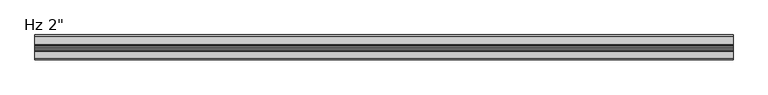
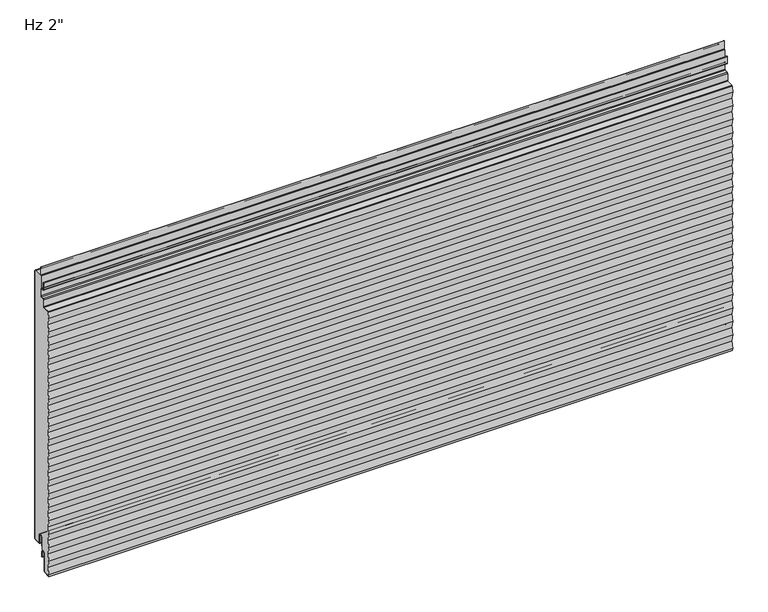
"""IFC4 building model written with IfcOpenShell, lengths in millimetres: plate geometry."""

from ifc_helpers import new_model, si_unit, point, frame, frame_2d, origin, place, context, project, spatial, polyline, circle_curve, ellipse_curve, trimmed, segment, composite_curve, outline, extrude, source, transform, mapped, element, save
from ifc_brep_helpers import plane_surface, cylinder_surface, revolved_surface, extruded_surface, advanced_brep


def plate_d9096f4b(model_context):
    return source(origin(), model_context, "Body", "SolidModel", [
        extrude(outline(composite_curve([segment(polyline([(-22.8125, 564.5620957), (-22.8125, 607.80625), (-2.38125, 607.80625)]), True, "CONTINUOUS"), segment(trimmed(circle_curve(frame_2d((-2.38125, 606.425)), 1.38125), [point((-2.38125, 607.80625))], [point((-1.0, 606.425))], False, "CARTESIAN"), True, "CONTINUOUS"), segment(polyline([(-1.0, 606.425), (-1.0, 3.175)]), True, "CONTINUOUS"), segment(trimmed(circle_curve(frame_2d((-2.38125, 3.175)), 1.38125), [point((-1.0, 3.175))], [point((-2.38125, 1.79375))], False, "CARTESIAN"), True, "CONTINUOUS"), segment(polyline([(-2.38125, 1.79375), (-15.08125, 1.79375)]), True, "CONTINUOUS"), segment(trimmed(circle_curve(frame_2d((-15.08125, 3.175)), 1.38125), [point((-15.08125, 1.79375))], [point((-16.4625, 3.175))], False, "CARTESIAN"), True, "CONTINUOUS"), segment(polyline([(-16.4625, 3.175), (-16.4625, 19.05)]), True, "CONTINUOUS"), segment(trimmed(circle_curve(frame_2d((-21.43125, 19.05)), 4.96875), [point((-16.4625, 19.05))], [point((-26.4, 19.05))], True, "CARTESIAN"), True, "CONTINUOUS"), segment(polyline([(-26.4, 19.05), (-26.4, -6.9375), (-30.95625, -6.9375)]), True, "CONTINUOUS"), segment(trimmed(circle_curve(frame_2d((-30.95625, -11.90625)), 4.96875), [point((-30.95625, -6.9375))], [point((-35.925, -11.90625))], True, "CARTESIAN"), True, "CONTINUOUS"), segment(polyline([(-35.925, -11.90625), (-35.925, -50.0895546)]), True, "CONTINUOUS"), segment(trimmed(circle_curve(frame_2d((-37.30625, -50.0895546)), 1.38125), [point((-35.925, -50.0895546))], [point((-37.233961, -51.4689117))], False, "CARTESIAN"), True, "CONTINUOUS"), segment(polyline([(-37.233961, -51.4689117), (-50.4085109, -52.1593606), (-50.9378194, -48.8511825), (-48.4994194, -33.6111825), (-50.9378194, -18.3711825), (-48.4994194, -3.1311825), (-50.9378194, 12.1088175), (-48.4994194, 27.3488175), (-50.9378194, 42.5888175), (-48.4994194, 57.8288175), (-50.9378194, 73.0688175), (-48.4994194, 88.3088175), (-50.9378194, 103.5488175), (-48.4994194, 118.7888175), (-50.9378194, 134.0288175), (-48.4994194, 149.2688175), (-50.9378194, 164.5088175), (-48.4994194, 179.7488175), (-50.9378194, 194.9888175), (-48.4994194, 210.2288175), (-50.9378194, 225.4688175), (-48.4994194, 240.7088175), (-50.9378194, 255.9488175), (-48.4994194, 271.1888175), (-50.9378194, 286.4288175), (-48.4994194, 301.6688175), (-50.9378194, 316.9088175), (-48.4994194, 332.1488175), (-50.9378194, 347.3888175), (-48.4994194, 362.6288175), (-50.9378194, 377.8688175), (-48.4994194, 393.1088175), (-50.9378194, 408.3488175), (-48.4994194, 423.5888175), (-50.9378194, 438.8288175), (-48.4994194, 454.0688175), (-50.9378194, 469.3088175), (-48.4994194, 484.5488175), (-50.9378194, 499.7888175), (-48.4994194, 515.0288175), (-50.9054086, 530.06625), (-48.8673048, 542.8043985), (-34.7895807, 543.5421807)]), True, "CONTINUOUS"), segment(trimmed(circle_curve(frame_2d((-34.925, 546.1261347)), 2.5875), [point((-34.7895807, 543.5421807))], [point((-32.3375, 546.1261347))], True, "CARTESIAN"), True, "CONTINUOUS"), segment(polyline([(-32.3375, 546.1261347), (-32.3375, 560.2967085)]), True, "CONTINUOUS"), segment(trimmed(circle_curve(frame_2d((-30.95625, 560.2967085)), 1.38125), [point((-32.3375, 560.2967085))], [point((-31.028539, 561.6760655))], False, "CARTESIAN"), True, "CONTINUOUS"), segment(polyline([(-31.028539, 561.6760655), (-25.2645807, 561.9781418)]), True, "CONTINUOUS"), segment(trimmed(circle_curve(frame_2d((-25.4, 564.5620957)), 2.5875), [point((-25.2645807, 561.9781418))], [point((-22.8125, 564.5620957))], True, "CARTESIAN"), True, "CONTINUOUS")], self_intersect=False)), frame((-730.0, 0.0, 0.0), z_axis=(1.0, 0.0, 0.0), x_axis=(0.0, 1.0, 0.0)), (0.0, 0.0, 1.0), 1460.0),
        extrude(outline(composite_curve([segment(polyline([(-25.4, 0.79375), (-26.4, 0.79375), (-26.4, 19.05)]), True, "CONTINUOUS"), segment(trimmed(circle_curve(frame_2d((-21.43125, 19.05)), 4.96875), [point((-26.4, 19.05))], [point((-16.4625, 19.05))], False, "CARTESIAN"), True, "CONTINUOUS"), segment(polyline([(-16.4625, 19.05), (-16.4625, 3.175)]), True, "CONTINUOUS"), segment(trimmed(circle_curve(frame_2d((-15.08125, 3.175)), 1.38125), [point((-16.4625, 3.175))], [point((-15.08125, 1.79375))], True, "CARTESIAN"), True, "CONTINUOUS"), segment(polyline([(-15.08125, 1.79375), (-2.38125, 1.79375)]), True, "CONTINUOUS"), segment(trimmed(circle_curve(frame_2d((-2.38125, 3.175)), 1.38125), [point((-2.38125, 1.79375))], [point((-1.0, 3.175))], True, "CARTESIAN"), True, "CONTINUOUS"), segment(polyline([(-1.0, 3.175), (-1.0, 606.425)]), True, "CONTINUOUS"), segment(trimmed(circle_curve(frame_2d((-2.38125, 606.425)), 1.38125), [point((-1.0, 606.425))], [point((-2.38125, 607.80625))], True, "CARTESIAN"), True, "CONTINUOUS"), segment(polyline([(-2.38125, 607.80625), (-19.446875, 607.80625)]), True, "CONTINUOUS"), segment(trimmed(circle_curve(frame_2d((-19.446875, 610.39375)), 2.5875), [point((-19.446875, 607.80625))], [point((-22.034375, 610.39375))], False, "CARTESIAN"), True, "CONTINUOUS"), segment(polyline([(-22.034375, 610.39375), (-22.034375, 627.85625), (-21.034375, 627.85625), (-21.034375, 610.39375)]), True, "CONTINUOUS"), segment(trimmed(circle_curve(frame_2d((-19.446875, 610.39375)), 1.5875), [point((-21.034375, 610.39375))], [point((-19.446875, 608.80625))], True, "CARTESIAN"), True, "CONTINUOUS"), segment(polyline([(-19.446875, 608.80625), (-2.38125, 608.80625)]), True, "CONTINUOUS"), segment(trimmed(circle_curve(frame_2d((-2.38125, 606.425)), 2.38125), [point((-2.38125, 608.80625))], [point((0.0, 606.425))], False, "CARTESIAN"), True, "CONTINUOUS"), segment(polyline([(0.0, 606.425), (0.0, 3.175)]), True, "CONTINUOUS"), segment(trimmed(circle_curve(frame_2d((-2.38125, 3.175)), 2.38125), [point((0.0, 3.175))], [point((-2.38125, 0.79375))], False, "CARTESIAN"), True, "CONTINUOUS"), segment(polyline([(-2.38125, 0.79375), (-15.08125, 0.79375)]), True, "CONTINUOUS"), segment(trimmed(circle_curve(frame_2d((-15.08125, 3.175)), 2.38125), [point((-15.08125, 0.79375))], [point((-17.4625, 3.175))], False, "CARTESIAN"), True, "CONTINUOUS"), segment(polyline([(-17.4625, 3.175), (-17.4625, 19.05)]), True, "CONTINUOUS"), segment(trimmed(circle_curve(frame_2d((-21.43125, 19.05)), 3.96875), [point((-17.4625, 19.05))], [point((-25.4, 19.05))], True, "CARTESIAN"), True, "CONTINUOUS"), segment(polyline([(-25.4, 19.05), (-25.4, 0.79375)]), True, "CONTINUOUS")], self_intersect=False)), frame((-730.0, 0.0, 0.0), z_axis=(1.0, 0.0, 0.0), x_axis=(0.0, 1.0, 0.0)), (0.0, 0.0, 1.0), 1460.0),
        advanced_brep(
        [(-730.0, -48.5998204, 271.1690814), (730.0, -48.5998204, 271.1690814), (730.0, -51.0382204, 255.9290814), (-730.0, -51.0382204, 255.9290814), (-730.0, -48.543375, 543.8227473), (730.0, -48.543375, 543.8227473), (730.0, -34.8419167, 544.5408103), (-730.0, -34.8419167, 544.5408103), (-730.0, -49.6125395, 515.0090814), (730.0, -49.6125395, 515.0090814), (730.0, -52.0185287, 530.0465139), (-730.0, -52.0185287, 530.0465139), (-730.0, -48.5998204, 515.0090814), (730.0, -48.5998204, 515.0090814), (730.0, -51.0382204, 499.7690814), (-730.0, -51.0382204, 499.7690814), (730.0, -48.5998204, 484.5290814), (-730.0, -48.5998204, 484.5290814), (730.0, -51.0382204, 469.2890814), (-730.0, -51.0382204, 469.2890814), (730.0, -48.5998204, 454.0490814), (-730.0, -48.5998204, 454.0490814), (730.0, -51.0382204, 438.8090814), (-730.0, -51.0382204, 438.8090814), (730.0, -48.5998204, 423.5690814), (-730.0, -48.5998204, 423.5690814), (730.0, -51.0382204, 408.3290814), (-730.0, -51.0382204, 408.3290814), (730.0, -48.5998204, 393.0890814), (-730.0, -48.5998204, 393.0890814), (730.0, -51.0382204, 377.8490814), (-730.0, -51.0382204, 377.8490814), (730.0, -48.5998204, 362.6090814), (-730.0, -48.5998204, 362.6090814), (730.0, -51.0382204, 347.3690814), (-730.0, -51.0382204, 347.3690814), (730.0, -48.5998204, 332.1290814), (-730.0, -48.5998204, 332.1290814), (730.0, -51.0382204, 316.8890814), (-730.0, -51.0382204, 316.8890814), (-730.0, -52.0509395, 438.8090814), (730.0, -52.0509395, 438.8090814), (730.0, -49.6125395, 454.0490814), (-730.0, -49.6125395, 454.0490814), (730.0, -52.0509395, 469.2890814), (-730.0, -52.0509395, 469.2890814), (730.0, -49.6125395, 484.5290814), (-730.0, -49.6125395, 484.5290814), (730.0, -52.0509395, 499.7690814), (-730.0, -52.0509395, 499.7690814), (-730.0, -48.491039, 542.8241177), (730.0, -48.491039, 542.8241177), (730.0, -49.040413, 542.3302423), (-730.0, -49.040413, 542.3302423), (730.0, -51.0058096, 530.0465139), (-730.0, -51.0058096, 530.0465139), (-730.0, -49.6125395, 362.6090814), (730.0, -49.6125395, 362.6090814), (730.0, -52.0509395, 377.8490814), (-730.0, -52.0509395, 377.8490814), (-730.0, -52.0509395, 408.3290814), (730.0, -52.0509395, 408.3290814), (730.0, -49.6125395, 423.5690814), (-730.0, -49.6125395, 423.5690814), (-730.0, -49.6125395, 301.6490814), (730.0, -49.6125395, 301.6490814), (730.0, -52.0509395, 316.8890814), (-730.0, -52.0509395, 316.8890814), (-730.0, -52.0509395, 347.3690814), (730.0, -52.0509395, 347.3690814), (-730.0, -49.6125395, 240.6890814), (730.0, -49.6125395, 240.6890814), (730.0, -52.0509395, 255.9290814), (-730.0, -52.0509395, 255.9290814), (-730.0, -52.0509395, 286.4090814), (730.0, -52.0509395, 286.4090814), (-730.0, -49.6125395, 179.7290814), (730.0, -49.6125395, 179.7290814), (730.0, -52.0509395, 194.9690814), (-730.0, -52.0509395, 194.9690814), (-730.0, -52.0509395, 225.4490814), (730.0, -52.0509395, 225.4490814), (-730.0, -49.6125395, 118.7690814), (730.0, -49.6125395, 118.7690814), (730.0, -52.0509395, 134.0090814), (-730.0, -52.0509395, 134.0090814), (-730.0, -52.0509395, 164.4890814), (730.0, -52.0509395, 164.4890814), (-730.0, -49.6125395, 57.8090814), (730.0, -49.6125395, 57.8090814), (730.0, -52.0509395, 73.0490814), (-730.0, -52.0509395, 73.0490814), (-730.0, -52.0509395, 103.5290814), (730.0, -52.0509395, 103.5290814), (-730.0, -49.6125395, -3.1509186), (730.0, -49.6125395, -3.1509186), (730.0, -52.0509395, 12.0890814), (-730.0, -52.0509395, 12.0890814), (-730.0, -52.0509395, 42.5690814), (730.0, -52.0509395, 42.5690814), (-730.0, -25.4, -23.2314549), (-730.0, -26.9875, -23.2314549), (-730.0, -26.9875, -11.9205174), (-730.0, -34.925, -11.9205174), (-730.0, -34.925, -50.1038221), (-730.0, -37.181625, -52.4818086), (-730.0, -51.3543553, -53.22457), (-730.0, -52.0509395, -48.8709186), (-730.0, -49.6125395, -33.6309186), (-730.0, -52.0509395, -18.3909186), (-730.0, -49.6125395, 27.3290814), (-730.0, -49.6125395, 88.2890814), (-730.0, -49.6125395, 149.2490814), (-730.0, -49.6125395, 210.2090814), (-730.0, -49.6125395, 271.1690814), (-730.0, -49.6125395, 332.1290814), (-730.0, -49.6125395, 393.0890814), (-730.0, -50.0278537, 542.4882328), (-730.0, -33.3375, 546.1261347), (-730.0, -33.3375, 560.2824411), (-730.0, -31.080875, 562.6604276), (-730.0, -25.3169167, 562.9625039), (-730.0, -23.8125, 564.5478283), (-730.0, -23.8125, 579.4232326), (-730.0, -25.4, 581.0107326), (-730.0, -29.5671875, 581.0107326), (-730.0, -31.9484375, 583.3919826), (-730.0, -31.9484375, 597.8836032), (-730.0, -30.1546875, 597.8836032), (-730.0, -30.1546875, 588.1544826), (-730.0, -30.9484375, 588.1544826), (-730.0, -30.9484375, 583.3919826), (-730.0, -29.5671875, 582.0107326), (-730.0, -25.4, 582.0107326), (-730.0, -22.8125, 579.4232326), (-730.0, -22.8125, 564.5478283), (-730.0, -25.2645807, 561.9638744), (-730.0, -31.028539, 561.6617981), (-730.0, -32.3375, 560.2824411), (-730.0, -32.3375, 546.1261347), (-730.0, -34.7895807, 543.5421807), (-730.0, -48.5998204, 301.6490814), (-730.0, -51.0382204, 286.4090814), (-730.0, -48.5998204, 240.6890814), (-730.0, -51.0382204, 225.4490814), (-730.0, -48.5998204, 210.2090814), (-730.0, -51.0382204, 194.9690814), (-730.0, -48.5998204, 179.7290814), (-730.0, -51.0382204, 164.4890814), (-730.0, -48.5998204, 149.2490814), (-730.0, -51.0382204, 134.0090814), (-730.0, -48.5998204, 118.7690814), (-730.0, -51.0382204, 103.5290814), (-730.0, -48.5998204, 88.2890814), (-730.0, -51.0382204, 73.0490814), (-730.0, -48.5998204, 57.8090814), (-730.0, -51.0382204, 42.5690814), (-730.0, -48.5998204, 27.3290814), (-730.0, -51.0382204, 12.0890814), (-730.0, -48.5998204, -3.1509186), (-730.0, -51.0382204, -18.3909186), (-730.0, -48.5998204, -33.6309186), (-730.0, -51.0382204, -48.8709186), (-730.0, -50.5089447, -52.1788915), (-730.0, -37.233961, -51.4831791), (-730.0, -35.925, -50.1038221), (-730.0, -35.925, -11.9205174), (-730.0, -25.9875, -11.9205174), (-730.0, -26.19375, -13.5080174), (-730.0, -25.4, -13.5080174), (730.0, -25.4, -23.2314549), (730.0, -25.4, -13.5080174), (730.0, -26.19375, -13.5080174), (730.0, -25.9875, -11.9205174), (730.0, -35.925, -11.9205174), (730.0, -35.925, -50.1038221), (730.0, -37.233961, -51.4831791), (730.0, -50.5089447, -52.1788915), (730.0, -51.0382204, -48.8709186), (730.0, -48.5998204, -33.6309186), (730.0, -51.0382204, -18.3909186), (730.0, -48.5998204, -3.1509186), (730.0, -51.0382204, 12.0890814), (730.0, -48.5998204, 27.3290814), (730.0, -51.0382204, 42.5690814), (730.0, -48.5998204, 57.8090814), (730.0, -51.0382204, 73.0490814), (730.0, -48.5998204, 88.2890814), (730.0, -51.0382204, 103.5290814), (730.0, -48.5998204, 118.7690814), (730.0, -51.0382204, 134.0090814), (730.0, -48.5998204, 149.2490814), (730.0, -51.0382204, 164.4890814), (730.0, -48.5998204, 179.7290814), (730.0, -51.0382204, 194.9690814), (730.0, -48.5998204, 210.2090814), (730.0, -51.0382204, 225.4490814), (730.0, -48.5998204, 240.6890814), (730.0, -51.0382204, 286.4090814), (730.0, -48.5998204, 301.6490814), (730.0, -34.7895807, 543.5421807), (730.0, -32.3375, 546.1261347), (730.0, -32.3375, 560.2824411), (730.0, -31.028539, 561.6617981), (730.0, -25.2645807, 561.9638744), (730.0, -22.8125, 564.5478283), (730.0, -22.8125, 579.4232326), (730.0, -25.4, 582.0107326), (730.0, -29.5671875, 582.0107326), (730.0, -30.9484375, 583.3919826), (730.0, -30.9484375, 588.1544826), (730.0, -30.1546875, 588.1544826), (730.0, -30.1546875, 597.8836032), (730.0, -31.9484375, 597.8836032), (730.0, -31.9484375, 583.3919826), (730.0, -29.5671875, 581.0107326), (730.0, -25.4, 581.0107326), (730.0, -23.8125, 579.4232326), (730.0, -23.8125, 564.5478283), (730.0, -25.3169167, 562.9625039), (730.0, -31.080875, 562.6604276), (730.0, -33.3375, 560.2824411), (730.0, -33.3375, 546.1261347), (730.0, -50.0278537, 542.4882328), (730.0, -49.6125395, 393.0890814), (730.0, -49.6125395, 332.1290814), (730.0, -49.6125395, 271.1690814), (730.0, -49.6125395, 210.2090814), (730.0, -49.6125395, 149.2490814), (730.0, -49.6125395, 88.2890814), (730.0, -49.6125395, 27.3290814), (730.0, -52.0509395, -18.3909186), (730.0, -49.6125395, -33.6309186), (730.0, -52.0509395, -48.8709186), (730.0, -51.3543553, -53.22457), (730.0, -37.181625, -52.4818086), (730.0, -34.925, -50.1038221), (730.0, -34.925, -11.9205174), (730.0, -26.9875, -11.9205174), (730.0, -26.9875, -23.2314549)],
        [
            (0, 1),
            (1, 2),
            (2, 3),
            (3, 0),
            (4, 5),
            (5, 6),
            (6, 7),
            (7, 4),
            (8, 9),
            (9, 10),
            (10, 11),
            (11, 8),
            (12, 13),
            (13, 14),
            (14, 15),
            (15, 12),
            (14, 16),
            (16, 17),
            (17, 15),
            (16, 18),
            (18, 19),
            (19, 17),
            (18, 20),
            (20, 21),
            (21, 19),
            (20, 22),
            (22, 23),
            (23, 21),
            (22, 24),
            (24, 25),
            (25, 23),
            (24, 26),
            (26, 27),
            (27, 25),
            (26, 28),
            (28, 29),
            (29, 27),
            (28, 30),
            (30, 31),
            (31, 29),
            (30, 32),
            (32, 33),
            (33, 31),
            (32, 34),
            (34, 35),
            (35, 33),
            (34, 36),
            (36, 37),
            (37, 35),
            (36, 38),
            (38, 39),
            (39, 37),
            (40, 41),
            (41, 42),
            (42, 43),
            (43, 40),
            (42, 44),
            (44, 45),
            (45, 43),
            (44, 46),
            (46, 47),
            (47, 45),
            (46, 48),
            (48, 49),
            (49, 47),
            (48, 9),
            (8, 49),
            (50, 51),
            (51, 52, circle_curve(frame((730.0, -48.4602917, 542.2374229), z_axis=(1.0, 0.0, 0.0), x_axis=(0.0, 0.0, 1.0)), 0.5875)),
            (52, 53),
            (53, 50, circle_curve(frame((-730.0, -48.4602917, 542.2374229), z_axis=(-1.0, 0.0, 0.0), x_axis=(0.0, 0.0, 1.0)), 0.5875)),
            (52, 54),
            (54, 55),
            (55, 53),
            (56, 57),
            (57, 58),
            (58, 59),
            (59, 56),
            (60, 61),
            (61, 62),
            (62, 63),
            (63, 60),
            (64, 65),
            (65, 66),
            (66, 67),
            (67, 64),
            (68, 69),
            (69, 57),
            (56, 68),
            (70, 71),
            (71, 72),
            (72, 73),
            (73, 70),
            (74, 75),
            (75, 65),
            (64, 74),
            (76, 77),
            (77, 78),
            (78, 79),
            (79, 76),
            (80, 81),
            (81, 71),
            (70, 80),
            (82, 83),
            (83, 84),
            (84, 85),
            (85, 82),
            (86, 87),
            (87, 77),
            (76, 86),
            (88, 89),
            (89, 90),
            (90, 91),
            (91, 88),
            (92, 93),
            (93, 83),
            (82, 92),
            (94, 95),
            (95, 96),
            (96, 97),
            (97, 94),
            (98, 99),
            (99, 89),
            (88, 98),
            (100, 101, circle_curve(frame((-730.0, -26.19375, -23.2314549), z_axis=(-1.0, 0.0, 0.0), x_axis=(0.0, 0.0, 1.0)), 0.79375)),
            (101, 102),
            (102, 103, circle_curve(frame((-730.0, -30.95625, -11.9205174), z_axis=(1.0, 0.0, 0.0), x_axis=(0.0, 0.0, 1.0)), 3.96875)),
            (103, 104),
            (104, 105, circle_curve(frame((-730.0, -37.30625, -50.1038221), z_axis=(-1.0, 0.0, 0.0), x_axis=(0.0, 0.0, 1.0)), 2.38125)),
            (105, 106),
            (106, 107),
            (107, 108),
            (108, 109),
            (109, 94),
            (97, 110),
            (110, 98),
            (91, 111),
            (111, 92),
            (85, 112),
            (112, 86),
            (79, 113),
            (113, 80),
            (73, 114),
            (114, 74),
            (67, 115),
            (115, 68),
            (59, 116),
            (116, 60),
            (63, 40),
            (11, 117),
            (117, 4, circle_curve(frame((-730.0, -48.4602917, 542.2374229), z_axis=(-1.0, 0.0, 0.0), x_axis=(0.0, 0.0, 1.0)), 1.5875)),
            (7, 118, circle_curve(frame((-730.0, -34.925, 546.1261347), z_axis=(1.0, 0.0, 0.0), x_axis=(0.0, 0.0, 1.0)), 1.5875)),
            (118, 119),
            (119, 120, circle_curve(frame((-730.0, -30.95625, 560.2824411), z_axis=(-1.0, 0.0, 0.0), x_axis=(0.0, 0.0, 1.0)), 2.38125)),
            (120, 121),
            (121, 122, circle_curve(frame((-730.0, -25.4, 564.5478283), z_axis=(1.0, 0.0, 0.0), x_axis=(0.0, 0.0, 1.0)), 1.5875)),
            (122, 123),
            (123, 124, circle_curve(frame((-730.0, -25.4, 579.4232326), z_axis=(1.0, 0.0, 0.0), x_axis=(0.0, 0.0, 1.0)), 1.5875)),
            (124, 125),
            (125, 126, circle_curve(frame((-730.0, -29.5671875, 583.3919826), z_axis=(-1.0, 0.0, 0.0), x_axis=(0.0, 0.0, 1.0)), 2.38125)),
            (126, 127),
            (127, 128, ellipse_curve(frame((-730.0, -31.0515625, 597.8836032), z_axis=(-1.0, 0.0, 0.0), x_axis=(0.0, 1.0, 0.0)), 0.896875, 0.7852275)),
            (128, 129),
            (129, 130),
            (130, 131),
            (131, 132, circle_curve(frame((-730.0, -29.5671875, 583.3919826), z_axis=(1.0, 0.0, 0.0), x_axis=(0.0, 0.0, 1.0)), 1.38125)),
            (132, 133),
            (133, 134, circle_curve(frame((-730.0, -25.4, 579.4232326), z_axis=(-1.0, 0.0, 0.0), x_axis=(0.0, 0.0, 1.0)), 2.5875)),
            (134, 135),
            (135, 136, circle_curve(frame((-730.0, -25.4, 564.5478283), z_axis=(-1.0, 0.0, 0.0), x_axis=(0.0, 0.0, 1.0)), 2.5875)),
            (136, 137),
            (137, 138, circle_curve(frame((-730.0, -30.95625, 560.2824411), z_axis=(1.0, 0.0, 0.0), x_axis=(0.0, 0.0, 1.0)), 1.38125)),
            (138, 139),
            (139, 140, circle_curve(frame((-730.0, -34.925, 546.1261347), z_axis=(-1.0, 0.0, 0.0), x_axis=(0.0, 0.0, 1.0)), 2.5875)),
            (140, 50),
            (55, 12),
            (39, 141),
            (141, 142),
            (142, 0),
            (3, 143),
            (143, 144),
            (144, 145),
            (145, 146),
            (146, 147),
            (147, 148),
            (148, 149),
            (149, 150),
            (150, 151),
            (151, 152),
            (152, 153),
            (153, 154),
            (154, 155),
            (155, 156),
            (156, 157),
            (157, 158),
            (158, 159),
            (159, 160),
            (160, 161),
            (161, 162),
            (162, 163),
            (163, 164),
            (164, 165, circle_curve(frame((-730.0, -37.30625, -50.1038221), z_axis=(1.0, 0.0, 0.0), x_axis=(0.0, 0.0, 1.0)), 1.38125)),
            (165, 166),
            (166, 167, circle_curve(frame((-730.0, -30.95625, -11.9205174), z_axis=(-1.0, 0.0, 0.0), x_axis=(0.0, 0.0, 1.0)), 4.96875)),
            (167, 168),
            (168, 169),
            (169, 100),
            (170, 171),
            (171, 172),
            (172, 173),
            (173, 174, circle_curve(frame((730.0, -30.95625, -11.9205174), z_axis=(1.0, 0.0, 0.0), x_axis=(0.0, 0.0, 1.0)), 4.96875)),
            (174, 175),
            (175, 176, circle_curve(frame((730.0, -37.30625, -50.1038221), z_axis=(-1.0, 0.0, 0.0), x_axis=(0.0, 0.0, 1.0)), 1.38125)),
            (176, 177),
            (177, 178),
            (178, 179),
            (179, 180),
            (180, 181),
            (181, 182),
            (182, 183),
            (183, 184),
            (184, 185),
            (185, 186),
            (186, 187),
            (187, 188),
            (188, 189),
            (189, 190),
            (190, 191),
            (191, 192),
            (192, 193),
            (193, 194),
            (194, 195),
            (195, 196),
            (196, 197),
            (197, 2),
            (1, 198),
            (198, 199),
            (199, 38),
            (13, 54),
            (51, 200),
            (200, 201, circle_curve(frame((730.0, -34.925, 546.1261347), z_axis=(1.0, 0.0, 0.0), x_axis=(0.0, 0.0, 1.0)), 2.5875)),
            (201, 202),
            (202, 203, circle_curve(frame((730.0, -30.95625, 560.2824411), z_axis=(-1.0, 0.0, 0.0), x_axis=(0.0, 0.0, 1.0)), 1.38125)),
            (203, 204),
            (204, 205, circle_curve(frame((730.0, -25.4, 564.5478283), z_axis=(1.0, 0.0, 0.0), x_axis=(0.0, 0.0, 1.0)), 2.5875)),
            (205, 206),
            (206, 207, circle_curve(frame((730.0, -25.4, 579.4232326), z_axis=(1.0, 0.0, 0.0), x_axis=(0.0, 0.0, 1.0)), 2.5875)),
            (207, 208),
            (208, 209, circle_curve(frame((730.0, -29.5671875, 583.3919826), z_axis=(-1.0, 0.0, 0.0), x_axis=(0.0, 0.0, 1.0)), 1.38125)),
            (209, 210),
            (210, 211),
            (211, 212),
            (212, 213, ellipse_curve(frame((730.0, -31.0515625, 597.8836032), z_axis=(1.0, 0.0, 0.0), x_axis=(0.0, 1.0, 0.0)), 0.896875, 0.7852275)),
            (213, 214),
            (214, 215, circle_curve(frame((730.0, -29.5671875, 583.3919826), z_axis=(1.0, 0.0, 0.0), x_axis=(0.0, 0.0, 1.0)), 2.38125)),
            (215, 216),
            (216, 217, circle_curve(frame((730.0, -25.4, 579.4232326), z_axis=(-1.0, 0.0, 0.0), x_axis=(0.0, 0.0, 1.0)), 1.5875)),
            (217, 218),
            (218, 219, circle_curve(frame((730.0, -25.4, 564.5478283), z_axis=(-1.0, 0.0, 0.0), x_axis=(0.0, 0.0, 1.0)), 1.5875)),
            (219, 220),
            (220, 221, circle_curve(frame((730.0, -30.95625, 560.2824411), z_axis=(1.0, 0.0, 0.0), x_axis=(0.0, 0.0, 1.0)), 2.38125)),
            (221, 222),
            (222, 6, circle_curve(frame((730.0, -34.925, 546.1261347), z_axis=(-1.0, 0.0, 0.0), x_axis=(0.0, 0.0, 1.0)), 1.5875)),
            (5, 223, circle_curve(frame((730.0, -48.4602917, 542.2374229), z_axis=(1.0, 0.0, 0.0), x_axis=(0.0, 0.0, 1.0)), 1.5875)),
            (223, 10),
            (41, 62),
            (61, 224),
            (224, 58),
            (69, 225),
            (225, 66),
            (75, 226),
            (226, 72),
            (81, 227),
            (227, 78),
            (87, 228),
            (228, 84),
            (93, 229),
            (229, 90),
            (99, 230),
            (230, 96),
            (95, 231),
            (231, 232),
            (232, 233),
            (233, 234),
            (234, 235),
            (235, 236, circle_curve(frame((730.0, -37.30625, -50.1038221), z_axis=(1.0, 0.0, 0.0), x_axis=(0.0, 0.0, 1.0)), 2.38125)),
            (236, 237),
            (237, 238, circle_curve(frame((730.0, -30.95625, -11.9205174), z_axis=(-1.0, 0.0, 0.0), x_axis=(0.0, 0.0, 1.0)), 3.96875)),
            (238, 239),
            (239, 170, circle_curve(frame((730.0, -26.19375, -23.2314549), z_axis=(1.0, 0.0, 0.0), x_axis=(0.0, 0.0, 1.0)), 0.79375)),
            (169, 171),
            (170, 100),
            (163, 177),
            (176, 164),
            (175, 165),
            (174, 166),
            (173, 167),
            (168, 172),
            (129, 211),
            (210, 130),
            (128, 212),
            (127, 213),
            (139, 201),
            (200, 140),
            (137, 203),
            (202, 138),
            (135, 205),
            (204, 136),
            (131, 209),
            (208, 132),
            (133, 207),
            (206, 134),
            (126, 214),
            (124, 216),
            (215, 125),
            (122, 218),
            (217, 123),
            (120, 220),
            (219, 121),
            (118, 222),
            (221, 119),
            (105, 235),
            (234, 106),
            (103, 237),
            (236, 104),
            (101, 239),
            (238, 102),
            (199, 141),
            (198, 142),
            (197, 143),
            (196, 144),
            (195, 145),
            (194, 146),
            (193, 147),
            (192, 148),
            (191, 149),
            (190, 150),
            (189, 151),
            (223, 117),
            (116, 224),
            (115, 225),
            (114, 226),
            (113, 227),
            (112, 228),
            (111, 229),
            (110, 230),
            (108, 232),
            (231, 109),
            (233, 107),
            (161, 179),
            (178, 162),
            (159, 181),
            (180, 160),
            (157, 183),
            (182, 158),
            (155, 185),
            (184, 156),
            (153, 187),
            (186, 154),
            (188, 152),
        ],
        [
            plane_surface(frame((-730.0, -51.0382204, 255.9290814), z_axis=(0.0, 0.987440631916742, -0.15799050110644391), x_axis=(1.0, 0.0, 0.0))),
            plane_surface(frame((-730.0, -34.8419167, 544.5408103), z_axis=(0.0, -0.052335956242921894, 0.998629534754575), x_axis=(1.0, 0.0, 0.0))),
            plane_surface(frame((-730.0, -52.0185287, 530.0465139), z_axis=(0.0, -0.9874406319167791, -0.15799050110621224), x_axis=(1.0, 0.0, 0.0))),
            plane_surface(frame((-730.0, -51.0382204, 499.7690814), z_axis=(0.0, 0.9874406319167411, -0.15799050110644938), x_axis=(1.0, 0.0, 0.0))),
            plane_surface(frame((-730.0, -48.5998204, 484.5290814), z_axis=(0.0, 0.987440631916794, 0.1579905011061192), x_axis=(1.0, 0.0, 0.0))),
            plane_surface(frame((-730.0, -51.0382204, 469.2890814), z_axis=(0.0, 0.987440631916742, -0.15799050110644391), x_axis=(1.0, 0.0, 0.0))),
            plane_surface(frame((-730.0, -48.5998204, 454.0490814), z_axis=(0.0, 0.987440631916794, 0.1579905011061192), x_axis=(1.0, 0.0, 0.0))),
            plane_surface(frame((-730.0, -51.0382204, 438.8090814), z_axis=(0.0, 0.987440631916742, -0.15799050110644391), x_axis=(1.0, 0.0, 0.0))),
            plane_surface(frame((-730.0, -48.5998204, 423.5690814), z_axis=(0.0, 0.987440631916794, 0.1579905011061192), x_axis=(1.0, 0.0, 0.0))),
            plane_surface(frame((-730.0, -51.0382204, 408.3290814), z_axis=(0.0, 0.987440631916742, -0.15799050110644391), x_axis=(1.0, 0.0, 0.0))),
            plane_surface(frame((-730.0, -48.5998204, 393.0890814), z_axis=(0.0, 0.9874406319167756, 0.15799050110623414), x_axis=(1.0, 0.0, 0.0))),
            plane_surface(frame((-730.0, -51.0382204, 377.8490814), z_axis=(0.0, 0.9874406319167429, -0.15799050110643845), x_axis=(1.0, 0.0, 0.0))),
            plane_surface(frame((-730.0, -48.5998204, 362.6090814), z_axis=(0.0, 0.9874406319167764, 0.15799050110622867), x_axis=(1.0, 0.0, 0.0))),
            plane_surface(frame((-730.0, -51.0382204, 347.3690814), z_axis=(0.0, 0.9874406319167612, -0.1579905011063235), x_axis=(1.0, 0.0, 0.0))),
            plane_surface(frame((-730.0, -48.5998204, 332.1290814), z_axis=(0.0, 0.9874406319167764, 0.15799050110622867), x_axis=(1.0, 0.0, 0.0))),
            plane_surface(frame((-730.0, -51.0382204, 316.8890814), z_axis=(0.0, 0.987440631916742, -0.15799050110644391), x_axis=(1.0, 0.0, 0.0))),
            plane_surface(frame((-730.0, -49.6125395, 454.0490814), z_axis=(0.0, -0.9874406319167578, 0.15799050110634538), x_axis=(1.0, 0.0, 0.0))),
            plane_surface(frame((-730.0, -52.0509395, 469.2890814), z_axis=(0.0, -0.9874406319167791, -0.15799050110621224), x_axis=(1.0, 0.0, 0.0))),
            plane_surface(frame((-730.0, -49.6125395, 484.5290814), z_axis=(0.0, -0.9874406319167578, 0.15799050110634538), x_axis=(1.0, 0.0, 0.0))),
            plane_surface(frame((-730.0, -52.0509395, 499.7690814), z_axis=(0.0, -0.9874406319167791, -0.15799050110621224), x_axis=(1.0, 0.0, 0.0))),
            plane_surface(frame((-730.0, -49.6125395, 515.0090814), z_axis=(0.0, -0.9874406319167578, 0.15799050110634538), x_axis=(1.0, 0.0, 0.0))),
            revolved_surface(polyline([(730.0, -48.4602917, 542.8249228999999), (-730.0, -48.4602917, 542.8249228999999)]), (-730.0, -48.4602917, 542.2374229), (1.0, 0.0, 0.0)),
            plane_surface(frame((-730.0, -51.0058096, 530.0465139), z_axis=(0.0, 0.9874406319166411, -0.15799050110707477), x_axis=(1.0, 0.0, 0.0))),
            plane_surface(frame((-730.0, -52.0509395, 377.8490814), z_axis=(0.0, -0.9874406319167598, -0.15799050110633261), x_axis=(1.0, 0.0, 0.0))),
            plane_surface(frame((-730.0, -49.6125395, 423.5690814), z_axis=(0.0, -0.9874406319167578, 0.15799050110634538), x_axis=(1.0, 0.0, 0.0))),
            plane_surface(frame((-730.0, -52.0509395, 316.8890814), z_axis=(0.0, -0.9874406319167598, -0.15799050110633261), x_axis=(1.0, 0.0, 0.0))),
            plane_surface(frame((-730.0, -49.6125395, 362.6090814), z_axis=(0.0, -0.9874406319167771, 0.157990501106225), x_axis=(1.0, 0.0, 0.0))),
            plane_surface(frame((-730.0, -52.0509395, 255.9290814), z_axis=(0.0, -0.9874406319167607, -0.15799050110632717), x_axis=(1.0, 0.0, 0.0))),
            plane_surface(frame((-730.0, -49.6125395, 301.6490814), z_axis=(0.0, -0.9874406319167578, 0.15799050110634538), x_axis=(1.0, 0.0, 0.0))),
            plane_surface(frame((-730.0, -52.0509395, 194.9690814), z_axis=(0.0, -0.9874406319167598, -0.15799050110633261), x_axis=(1.0, 0.0, 0.0))),
            plane_surface(frame((-730.0, -49.6125395, 240.6890814), z_axis=(0.0, -0.9874406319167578, 0.15799050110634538), x_axis=(1.0, 0.0, 0.0))),
            plane_surface(frame((-730.0, -52.0509395, 134.0090814), z_axis=(0.0, -0.9874406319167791, -0.15799050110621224), x_axis=(1.0, 0.0, 0.0))),
            plane_surface(frame((-730.0, -49.6125395, 179.7290814), z_axis=(0.0, -0.9874406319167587, 0.15799050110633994), x_axis=(1.0, 0.0, 0.0))),
            plane_surface(frame((-730.0, -52.0509395, 73.0490814), z_axis=(0.0, -0.9874406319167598, -0.15799050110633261), x_axis=(1.0, 0.0, 0.0))),
            plane_surface(frame((-730.0, -49.6125395, 118.7690814), z_axis=(0.0, -0.9874406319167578, 0.15799050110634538), x_axis=(1.0, 0.0, 0.0))),
            plane_surface(frame((-730.0, -52.0509395, 12.0890814), z_axis=(0.0, -0.9874406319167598, -0.15799050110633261), x_axis=(1.0, 0.0, 0.0))),
            plane_surface(frame((-730.0, -49.6125395, 57.8090814), z_axis=(0.0, -0.9874406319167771, 0.157990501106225), x_axis=(1.0, 0.0, 0.0))),
            plane_surface(frame((-730.0, -50.8, 304.8), z_axis=(-1.0, 0.0, 0.0), x_axis=(0.0, -1.0, 0.0))),
            plane_surface(frame((730.0, -50.8, 304.8), z_axis=(1.0, 0.0, 0.0), x_axis=(0.0, -1.0, 0.0))),
            plane_surface(frame((-730.0, -25.4, -23.2314549), z_axis=(0.0, 1.0, 0.0), x_axis=(1.0, 0.0, 0.0))),
            plane_surface(frame((-730.0, -37.233961, -51.4831791), z_axis=(0.0, -0.052335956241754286, 0.9986295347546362), x_axis=(1.0, 0.0, 0.0))),
            revolved_surface(polyline([(730.0, -37.30625, -48.7225721), (-730.0, -37.30625, -48.7225721)]), (-730.0, -37.30625, -50.1038221), (1.0, 0.0, 0.0)),
            plane_surface(frame((-730.0, -35.925, -11.9205174), z_axis=(0.0, -1.0, 0.0), x_axis=(1.0, 0.0, 0.0))),
            cylinder_surface(frame((-730.0, -30.95625, -11.9205174), z_axis=(-1.0, 0.0, 0.0), x_axis=(0.0, 0.0, 1.0)), 4.96875),
            plane_surface(frame((-730.0, -25.4, -13.5080174), z_axis=(0.0, 0.0, 1.0), x_axis=(1.0, 0.0, 0.0))),
            plane_surface(frame((-730.0, -26.19375, -13.5080174), z_axis=(0.0, 0.9916655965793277, -0.12883844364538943), x_axis=(1.0, 0.0, 0.0))),
            plane_surface(frame((-730.0, -30.9484375, 588.1544826), z_axis=(0.0, 0.0, -1.0), x_axis=(1.0, 0.0, 0.0))),
            plane_surface(frame((-730.0, -30.1546875, 588.1544826), z_axis=(0.0, 1.0, 0.0), x_axis=(1.0, 0.0, 0.0))),
            extruded_surface(trimmed(ellipse_curve(frame((-730.0, -31.0515625, 597.8836032), z_axis=(1.0, 0.0, 0.0), x_axis=(0.0, 1.0, 0.0)), 0.896875, 0.7852275), [point((-730.0, -30.1546875, 597.8836032))], [point((-730.0, -31.9484375, 597.8836032))], True, "CARTESIAN"), (1460.0, 0.0, 0.0), 1460.0),
            cylinder_surface(frame((-730.0, -34.925, 546.1261347), z_axis=(-1.0, 0.0, 0.0), x_axis=(0.0, 0.0, 1.0)), 2.5875),
            revolved_surface(polyline([(730.0, -30.95625, 561.6636911), (-730.0, -30.95625, 561.6636911)]), (-730.0, -30.95625, 560.2824411), (1.0, 0.0, 0.0)),
            cylinder_surface(frame((-730.0, -25.4, 564.5478283), z_axis=(-1.0, 0.0, 0.0), x_axis=(0.0, 0.0, 1.0)), 2.5875),
            plane_surface(frame((-730.0, -31.028539, 561.6617981), z_axis=(0.0, 0.0523359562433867, -0.9986295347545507), x_axis=(1.0, 0.0, 0.0))),
            plane_surface(frame((-730.0, -32.3375, 546.1261347), z_axis=(0.0, 1.0, 0.0), x_axis=(1.0, 0.0, 0.0))),
            revolved_surface(polyline([(730.0, -29.5671875, 584.7732326), (-730.0, -29.5671875, 584.7732326)]), (-730.0, -29.5671875, 583.3919826), (1.0, 0.0, 0.0)),
            cylinder_surface(frame((-730.0, -25.4, 579.4232326), z_axis=(-1.0, 0.0, 0.0), x_axis=(0.0, 0.0, 1.0)), 2.5875),
            plane_surface(frame((-730.0, -25.4, 582.0107326), z_axis=(0.0, 0.0, 1.0), x_axis=(1.0, 0.0, 0.0))),
            plane_surface(frame((-730.0, -30.9484375, 583.3919826), z_axis=(0.0, 1.0, 0.0), x_axis=(1.0, 0.0, 0.0))),
            plane_surface(frame((-730.0, -31.9484375, 597.8836032), z_axis=(0.0, -1.0, 0.0), x_axis=(1.0, 0.0, 0.0))),
            plane_surface(frame((-730.0, -29.5671875, 581.0107326), z_axis=(0.0, 0.0, -1.0), x_axis=(1.0, 0.0, 0.0))),
            cylinder_surface(frame((-730.0, -29.5671875, 583.3919826), z_axis=(-1.0, 0.0, 0.0), x_axis=(0.0, 0.0, 1.0)), 2.38125),
            plane_surface(frame((-730.0, -22.8125, 564.5478283), z_axis=(0.0, 1.0, 0.0), x_axis=(1.0, 0.0, 0.0))),
            plane_surface(frame((-730.0, -23.8125, 579.4232326), z_axis=(0.0, -1.0, 0.0), x_axis=(1.0, 0.0, 0.0))),
            plane_surface(frame((-730.0, -25.3169167, 562.9625039), z_axis=(0.0, -0.052335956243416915, 0.9986295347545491), x_axis=(1.0, 0.0, 0.0))),
            revolved_surface(polyline([(730.0, -25.4, 566.1353283), (-730.0, -25.4, 566.1353283)]), (-730.0, -25.4, 564.5478283), (1.0, 0.0, 0.0)),
            revolved_surface(polyline([(730.0, -25.4, 581.0107326), (-730.0, -25.4, 581.0107326)]), (-730.0, -25.4, 579.4232326), (1.0, 0.0, 0.0)),
            plane_surface(frame((-730.0, -33.3375, 560.2824411), z_axis=(0.0, -1.0, 0.0), x_axis=(1.0, 0.0, 0.0))),
            revolved_surface(polyline([(730.0, -34.925, 547.7136347), (-730.0, -34.925, 547.7136347)]), (-730.0, -34.925, 546.1261347), (1.0, 0.0, 0.0)),
            cylinder_surface(frame((-730.0, -30.95625, 560.2824411), z_axis=(-1.0, 0.0, 0.0), x_axis=(0.0, 0.0, 1.0)), 2.38125),
            plane_surface(frame((-730.0, -51.3543553, -53.22457), z_axis=(0.0, 0.052335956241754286, -0.9986295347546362), x_axis=(1.0, 0.0, 0.0))),
            plane_surface(frame((-730.0, -34.925, -50.1038221), z_axis=(0.0, 1.0, 0.0), x_axis=(1.0, 0.0, 0.0))),
            plane_surface(frame((-730.0, -26.9875, -11.9205174), z_axis=(0.0, -1.0, 0.0), x_axis=(1.0, 0.0, 0.0))),
            revolved_surface(polyline([(730.0, -30.95625, -7.9517674), (-730.0, -30.95625, -7.9517674)]), (-730.0, -30.95625, -11.9205174), (1.0, 0.0, 0.0)),
            cylinder_surface(frame((-730.0, -37.30625, -50.1038221), z_axis=(-1.0, 0.0, 0.0), x_axis=(0.0, 0.0, 1.0)), 2.38125),
            cylinder_surface(frame((-730.0, -26.19375, -23.2314549), z_axis=(-1.0, 0.0, 0.0), x_axis=(0.0, 0.0, 1.0)), 0.79375),
            plane_surface(frame((-730.0, -48.5998204, 301.6490814), z_axis=(0.0, 0.9874406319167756, 0.15799050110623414), x_axis=(1.0, 0.0, 0.0))),
            plane_surface(frame((-730.0, -51.0382204, 286.4090814), z_axis=(0.0, 0.987440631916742, -0.15799050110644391), x_axis=(1.0, 0.0, 0.0))),
            plane_surface(frame((-730.0, -48.5998204, 271.1690814), z_axis=(0.0, 0.987440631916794, 0.1579905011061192), x_axis=(1.0, 0.0, 0.0))),
            plane_surface(frame((-730.0, -48.5998204, 240.6890814), z_axis=(0.0, 0.9874406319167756, 0.15799050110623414), x_axis=(1.0, 0.0, 0.0))),
            plane_surface(frame((-730.0, -51.0382204, 225.4490814), z_axis=(0.0, 0.9874406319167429, -0.15799050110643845), x_axis=(1.0, 0.0, 0.0))),
            plane_surface(frame((-730.0, -48.5998204, 210.2090814), z_axis=(0.0, 0.9874406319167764, 0.15799050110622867), x_axis=(1.0, 0.0, 0.0))),
            plane_surface(frame((-730.0, -51.0382204, 194.9690814), z_axis=(0.0, 0.9874406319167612, -0.1579905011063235), x_axis=(1.0, 0.0, 0.0))),
            plane_surface(frame((-730.0, -48.5998204, 179.7290814), z_axis=(0.0, 0.9874406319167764, 0.15799050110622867), x_axis=(1.0, 0.0, 0.0))),
            plane_surface(frame((-730.0, -51.0382204, 164.4890814), z_axis=(0.0, 0.987440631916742, -0.15799050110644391), x_axis=(1.0, 0.0, 0.0))),
            plane_surface(frame((-730.0, -48.5998204, 149.2490814), z_axis=(0.0, 0.9874406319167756, 0.15799050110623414), x_axis=(1.0, 0.0, 0.0))),
            plane_surface(frame((-730.0, -51.0382204, 134.0090814), z_axis=(0.0, 0.987440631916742, -0.15799050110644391), x_axis=(1.0, 0.0, 0.0))),
            plane_surface(frame((-730.0, -48.5998204, 118.7690814), z_axis=(0.0, 0.987440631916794, 0.1579905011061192), x_axis=(1.0, 0.0, 0.0))),
            plane_surface(frame((-730.0, -48.491039, 542.8241177), z_axis=(0.0, 0.05233595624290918, -0.9986295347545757), x_axis=(1.0, 0.0, 0.0))),
            plane_surface(frame((-730.0, -48.5998204, 515.0090814), z_axis=(0.0, 0.9874406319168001, 0.15799050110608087), x_axis=(1.0, 0.0, 0.0))),
            plane_surface(frame((-730.0, -52.0509395, 438.8090814), z_axis=(0.0, -0.9874406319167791, -0.15799050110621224), x_axis=(1.0, 0.0, 0.0))),
            plane_surface(frame((-730.0, -50.0278537, 542.4882328), z_axis=(0.0, -0.9874406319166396, 0.15799050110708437), x_axis=(1.0, 0.0, 0.0))),
            cylinder_surface(frame((-730.0, -48.4602917, 542.2374229), z_axis=(-1.0, 0.0, 0.0), x_axis=(0.0, 0.0, 1.0)), 1.5875),
            plane_surface(frame((-730.0, -52.0509395, 408.3290814), z_axis=(0.0, -0.9874406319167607, -0.15799050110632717), x_axis=(1.0, 0.0, 0.0))),
            plane_surface(frame((-730.0, -49.6125395, 393.0890814), z_axis=(0.0, -0.9874406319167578, 0.15799050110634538), x_axis=(1.0, 0.0, 0.0))),
            plane_surface(frame((-730.0, -52.0509395, 347.3690814), z_axis=(0.0, -0.9874406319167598, -0.15799050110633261), x_axis=(1.0, 0.0, 0.0))),
            plane_surface(frame((-730.0, -49.6125395, 332.1290814), z_axis=(0.0, -0.9874406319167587, 0.15799050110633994), x_axis=(1.0, 0.0, 0.0))),
            plane_surface(frame((-730.0, -52.0509395, 286.4090814), z_axis=(0.0, -0.9874406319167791, -0.15799050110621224), x_axis=(1.0, 0.0, 0.0))),
            plane_surface(frame((-730.0, -49.6125395, 271.1690814), z_axis=(0.0, -0.9874406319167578, 0.15799050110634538), x_axis=(1.0, 0.0, 0.0))),
            plane_surface(frame((-730.0, -52.0509395, 225.4490814), z_axis=(0.0, -0.9874406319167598, -0.15799050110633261), x_axis=(1.0, 0.0, 0.0))),
            plane_surface(frame((-730.0, -49.6125395, 210.2090814), z_axis=(0.0, -0.9874406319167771, 0.157990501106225), x_axis=(1.0, 0.0, 0.0))),
            plane_surface(frame((-730.0, -52.0509395, 164.4890814), z_axis=(0.0, -0.9874406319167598, -0.15799050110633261), x_axis=(1.0, 0.0, 0.0))),
            plane_surface(frame((-730.0, -49.6125395, 149.2490814), z_axis=(0.0, -0.9874406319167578, 0.15799050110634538), x_axis=(1.0, 0.0, 0.0))),
            plane_surface(frame((-730.0, -52.0509395, 103.5290814), z_axis=(0.0, -0.9874406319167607, -0.15799050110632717), x_axis=(1.0, 0.0, 0.0))),
            plane_surface(frame((-730.0, -49.6125395, 88.2890814), z_axis=(0.0, -0.9874406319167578, 0.15799050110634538), x_axis=(1.0, 0.0, 0.0))),
            plane_surface(frame((-730.0, -52.0509395, 42.5690814), z_axis=(0.0, -0.9874406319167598, -0.15799050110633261), x_axis=(1.0, 0.0, 0.0))),
            plane_surface(frame((-730.0, -49.6125395, 27.3290814), z_axis=(0.0, -0.9874406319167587, 0.15799050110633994), x_axis=(1.0, 0.0, 0.0))),
            plane_surface(frame((-730.0, -52.0509395, -18.3909186), z_axis=(0.0, -0.9874406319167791, -0.15799050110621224), x_axis=(1.0, 0.0, 0.0))),
            plane_surface(frame((-730.0, -52.0509395, -48.8709186), z_axis=(0.0, -0.9874406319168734, -0.15799050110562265), x_axis=(1.0, 0.0, 0.0))),
            plane_surface(frame((-730.0, -49.6125395, -33.6309186), z_axis=(0.0, -0.9874406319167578, 0.15799050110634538), x_axis=(1.0, 0.0, 0.0))),
            plane_surface(frame((-730.0, -49.6125395, -3.1509186), z_axis=(0.0, -0.9874406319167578, 0.15799050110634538), x_axis=(1.0, 0.0, 0.0))),
            plane_surface(frame((-730.0, -51.0382204, -48.8709186), z_axis=(0.0, 0.9874406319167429, -0.15799050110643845), x_axis=(1.0, 0.0, 0.0))),
            plane_surface(frame((-730.0, -51.0382204, -18.3909186), z_axis=(0.0, 0.987440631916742, -0.15799050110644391), x_axis=(1.0, 0.0, 0.0))),
            plane_surface(frame((-730.0, -48.5998204, -33.6309186), z_axis=(0.0, 0.987440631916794, 0.1579905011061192), x_axis=(1.0, 0.0, 0.0))),
            plane_surface(frame((-730.0, -50.5089447, -52.1788915), z_axis=(0.0, 0.987440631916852, 0.1579905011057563), x_axis=(1.0, 0.0, 0.0))),
            plane_surface(frame((-730.0, -51.0382204, 12.0890814), z_axis=(0.0, 0.987440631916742, -0.15799050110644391), x_axis=(1.0, 0.0, 0.0))),
            plane_surface(frame((-730.0, -51.0382204, 42.5690814), z_axis=(0.0, 0.9874406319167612, -0.1579905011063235), x_axis=(1.0, 0.0, 0.0))),
            plane_surface(frame((-730.0, -48.5998204, 27.3290814), z_axis=(0.0, 0.9874406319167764, 0.15799050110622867), x_axis=(1.0, 0.0, 0.0))),
            plane_surface(frame((-730.0, -48.5998204, -3.1509186), z_axis=(0.0, 0.9874406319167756, 0.15799050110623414), x_axis=(1.0, 0.0, 0.0))),
            plane_surface(frame((-730.0, -51.0382204, 73.0490814), z_axis=(0.0, 0.9874406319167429, -0.15799050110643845), x_axis=(1.0, 0.0, 0.0))),
            plane_surface(frame((-730.0, -51.0382204, 103.5290814), z_axis=(0.0, 0.987440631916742, -0.15799050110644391), x_axis=(1.0, 0.0, 0.0))),
            plane_surface(frame((-730.0, -48.5998204, 88.2890814), z_axis=(0.0, 0.9874406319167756, 0.15799050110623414), x_axis=(1.0, 0.0, 0.0))),
            plane_surface(frame((-730.0, -48.5998204, 57.8090814), z_axis=(0.0, 0.9874406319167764, 0.15799050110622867), x_axis=(1.0, 0.0, 0.0))),
        ],
        [
            (0, [[1, 2, 3, 4]]),
            (1, [[5, 6, 7, 8]]),
            (2, [[9, 10, 11, 12]]),
            (3, [[13, 14, 15, 16]]),
            (4, [[-15, 17, 18, 19]]),
            (5, [[-18, 20, 21, 22]]),
            (6, [[-21, 23, 24, 25]]),
            (7, [[-24, 26, 27, 28]]),
            (8, [[-27, 29, 30, 31]]),
            (9, [[-30, 32, 33, 34]]),
            (10, [[-33, 35, 36, 37]]),
            (11, [[-36, 38, 39, 40]]),
            (12, [[-39, 41, 42, 43]]),
            (13, [[-42, 44, 45, 46]]),
            (14, [[-45, 47, 48, 49]]),
            (15, [[-48, 50, 51, 52]]),
            (16, [[53, 54, 55, 56]]),
            (17, [[-55, 57, 58, 59]]),
            (18, [[-58, 60, 61, 62]]),
            (19, [[-61, 63, 64, 65]]),
            (20, [[-64, 66, -9, 67]]),
            (21, [[68, 69, 70, 71]]),
            (22, [[-70, 72, 73, 74]]),
            (23, [[75, 76, 77, 78]]),
            (24, [[79, 80, 81, 82]]),
            (25, [[83, 84, 85, 86]]),
            (26, [[87, 88, -75, 89]]),
            (27, [[90, 91, 92, 93]]),
            (28, [[94, 95, -83, 96]]),
            (29, [[97, 98, 99, 100]]),
            (30, [[101, 102, -90, 103]]),
            (31, [[104, 105, 106, 107]]),
            (32, [[108, 109, -97, 110]]),
            (33, [[111, 112, 113, 114]]),
            (34, [[115, 116, -104, 117]]),
            (35, [[118, 119, 120, 121]]),
            (36, [[122, 123, -111, 124]]),
            (37, [[125, 126, 127, 128, 129, 130, 131, 132, 133, 134, -121, 135, 136, -124, -114, 137, 138, -117, -107, 139, 140, -110, -100, 141, 142, -103, -93, 143, 144, -96, -86, 145, 146, -89, -78, 147, 148, -82, 149, -56, -59, -62, -65, -67, -12, 150, 151, -8, 152, 153, 154, 155, 156, 157, 158, 159, 160, 161, 162, 163, 164, 165, 166, 167, 168, 169, 170, 171, 172, 173, 174, 175, -71, -74, 176, -16, -19, -22, -25, -28, -31, -34, -37, -40, -43, -46, -49, -52, 177, 178, 179, -4, 180, 181, 182, 183, 184, 185, 186, 187, 188, 189, 190, 191, 192, 193, 194, 195, 196, 197, 198, 199, 200, 201, 202, 203, 204, 205, 206, 207]]),
            (38, [[208, 209, 210, 211, 212, 213, 214, 215, 216, 217, 218, 219, 220, 221, 222, 223, 224, 225, 226, 227, 228, 229, 230, 231, 232, 233, 234, 235, -2, 236, 237, 238, -50, -47, -44, -41, -38, -35, -32, -29, -26, -23, -20, -17, -14, 239, -72, -69, 240, 241, 242, 243, 244, 245, 246, 247, 248, 249, 250, 251, 252, 253, 254, 255, 256, 257, 258, 259, 260, 261, 262, 263, -6, 264, 265, -10, -66, -63, -60, -57, -54, 266, -80, 267, 268, -76, -88, 269, 270, -84, -95, 271, 272, -91, -102, 273, 274, -98, -109, 275, 276, -105, -116, 277, 278, -112, -123, 279, 280, -119, 281, 282, 283, 284, 285, 286, 287, 288, 289, 290]]),
            (39, [[291, -208, 292, -207]]),
            (40, [[293, -214, 294, -201]]),
            (41, [[-294, -213, 295, -202]]),
            (42, [[-295, -212, 296, -203]]),
            (43, [[-296, -211, 297, -204]]),
            (44, [[298, -209, -291, -206]]),
            (45, [[-297, -210, -298, -205]]),
            (46, [[299, -251, 300, -164]]),
            (47, [[301, -252, -299, -163]]),
            (48, [[302, -253, -301, -162]]),
            (49, [[303, -241, 304, -174]]),
            (50, [[305, -243, 306, -172]]),
            (51, [[307, -245, 308, -170]]),
            (52, [[-308, -244, -305, -171]]),
            (53, [[-306, -242, -303, -173]]),
            (54, [[309, -249, 310, -166]]),
            (55, [[311, -247, 312, -168]]),
            (56, [[-310, -248, -311, -167]]),
            (57, [[-300, -250, -309, -165]]),
            (58, [[313, -254, -302, -161]]),
            (59, [[314, -256, 315, -159]]),
            (60, [[-315, -255, -313, -160]]),
            (61, [[-312, -246, -307, -169]]),
            (62, [[316, -258, 317, -157]]),
            (63, [[318, -260, 319, -155]]),
            (64, [[-319, -259, -316, -156]]),
            (65, [[-317, -257, -314, -158]]),
            (66, [[320, -262, 321, -153]]),
            (67, [[-7, -263, -320, -152]]),
            (68, [[-321, -261, -318, -154]]),
            (69, [[322, -285, 323, -130]]),
            (70, [[324, -287, 325, -128]]),
            (71, [[326, -289, 327, -126]]),
            (72, [[-327, -288, -324, -127]]),
            (73, [[-325, -286, -322, -129]]),
            (74, [[-292, -290, -326, -125]]),
            (75, [[-51, -238, 328, -177]]),
            (76, [[-328, -237, 329, -178]]),
            (77, [[-329, -236, -1, -179]]),
            (78, [[-3, -235, 330, -180]]),
            (79, [[-330, -234, 331, -181]]),
            (80, [[-331, -233, 332, -182]]),
            (81, [[-332, -232, 333, -183]]),
            (82, [[-333, -231, 334, -184]]),
            (83, [[-334, -230, 335, -185]]),
            (84, [[-335, -229, 336, -186]]),
            (85, [[-336, -228, 337, -187]]),
            (86, [[-337, -227, 338, -188]]),
            (87, [[-304, -240, -68, -175]]),
            (88, [[-73, -239, -13, -176]]),
            (89, [[-81, -266, -53, -149]]),
            (90, [[-11, -265, 339, -150]]),
            (91, [[-339, -264, -5, -151]]),
            (92, [[340, -267, -79, -148]]),
            (93, [[-77, -268, -340, -147]]),
            (94, [[341, -269, -87, -146]]),
            (95, [[-85, -270, -341, -145]]),
            (96, [[342, -271, -94, -144]]),
            (97, [[-92, -272, -342, -143]]),
            (98, [[343, -273, -101, -142]]),
            (99, [[-99, -274, -343, -141]]),
            (100, [[344, -275, -108, -140]]),
            (101, [[-106, -276, -344, -139]]),
            (102, [[345, -277, -115, -138]]),
            (103, [[-113, -278, -345, -137]]),
            (104, [[346, -279, -122, -136]]),
            (105, [[-120, -280, -346, -135]]),
            (106, [[347, -282, 348, -133]]),
            (107, [[-323, -284, 349, -131]]),
            (108, [[-349, -283, -347, -132]]),
            (109, [[-348, -281, -118, -134]]),
            (110, [[350, -216, 351, -199]]),
            (111, [[352, -218, 353, -197]]),
            (112, [[-353, -217, -350, -198]]),
            (113, [[-351, -215, -293, -200]]),
            (114, [[354, -220, 355, -195]]),
            (115, [[356, -222, 357, -193]]),
            (116, [[-357, -221, -354, -194]]),
            (117, [[-355, -219, -352, -196]]),
            (118, [[358, -224, 359, -191]]),
            (119, [[-338, -226, 360, -189]]),
            (120, [[-360, -225, -358, -190]]),
            (121, [[-359, -223, -356, -192]]),
        ],
    ),
    ])


if __name__ == "__main__":
    model = new_model("IFC4")
    model_context = context("Model", 3, world=origin())
    ifc_project = project(units=[si_unit("LENGTHUNIT", "METRE", prefix="MILLI")], contexts=[model_context])
    site = spatial("IfcSite", under=ifc_project)
    building = spatial("IfcBuilding", under=site)
    placement = place(None, origin())
    plate_shape = plate_d9096f4b(model_context)
    element("IfcPlate", 1, ObjectType="KIP-24-DWHR-R19-CP-Hz-S : Hz 2\"", at=placement, inside=building, context=model_context, shape_type="MappedRepresentation", body=[
        mapped(plate_shape, transform((0.0, 0.0, 0.0), x_axis=(1.0, 0.0, 0.0), y_axis=(0.0, 1.0, 0.0), z_axis=(0.0, 0.0, 1.0))),
    ])
    save(model, "model.ifc")
